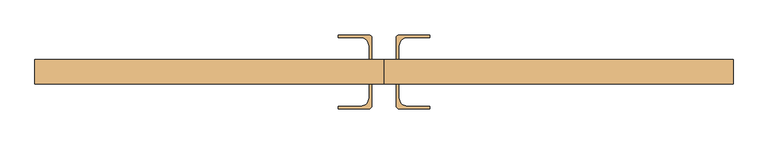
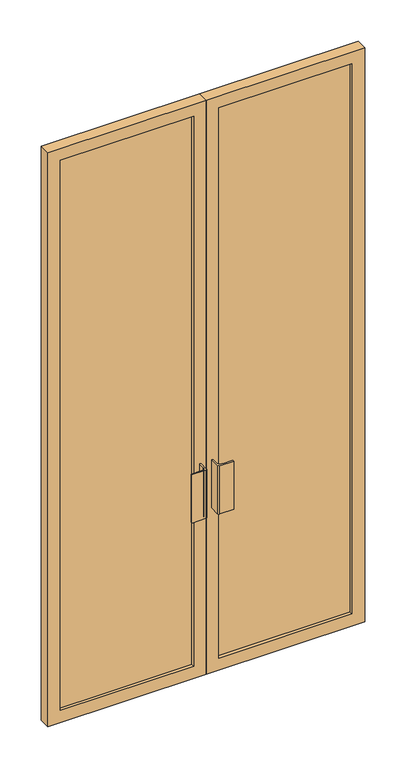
"""IFC4 building model written with IfcOpenShell, lengths in millimetres: door geometry, 门嵌板_双开门3 : 门嵌板_双开门 3."""

from ifc_helpers import new_model, si_unit, point, frame, frame_2d, origin, place, context, project, spatial, polyline, circle_curve, trimmed, segment, composite_curve, outline, extrude, source, transform, mapped, element, save


def door_3722e41d(model_context):
    return source(origin(), model_context, "Body", "SweptSolid", [
        extrude(outline(composite_curve([segment(polyline([(-25.0, 25.0), (-30.5, 25.0), (-30.5, 52.5)]), True, "CONTINUOUS"), segment(trimmed(circle_curve(frame_2d((-48.5, 52.5)), 18.0), [point((-30.5, 52.5))], [point((-48.5, 70.5))], True, "CARTESIAN"), True, "CONTINUOUS"), segment(polyline([(-48.5, 70.5), (-94.0, 70.5), (-94.0, 76.0), (-31.0, 76.0)]), True, "CONTINUOUS"), segment(trimmed(circle_curve(frame_2d((-31.0, 70.0)), 6.0), [point((-31.0, 76.0))], [point((-25.0, 70.0))], False, "CARTESIAN"), True, "CONTINUOUS"), segment(polyline([(-25.0, 70.0), (-25.0, 25.0)]), True, "CONTINUOUS")], self_intersect=False)), frame((0.0, 0.0, 785.0), z_axis=(0.0, 0.0, 1.0), x_axis=(1.0, 0.0, 0.0)), (0.0, 0.0, 1.0), 230.0),
        extrude(outline(composite_curve([segment(polyline([(-25.0, -25.0), (-25.0, -70.0)]), True, "CONTINUOUS"), segment(trimmed(circle_curve(frame_2d((-31.0, -70.0)), 6.0), [point((-25.0, -70.0))], [point((-31.0, -76.0))], False, "CARTESIAN"), True, "CONTINUOUS"), segment(polyline([(-31.0, -76.0), (-94.0, -76.0), (-94.0, -70.5), (-48.5, -70.5)]), True, "CONTINUOUS"), segment(trimmed(circle_curve(frame_2d((-48.5, -52.5)), 18.0), [point((-48.5, -70.5))], [point((-30.5, -52.5))], True, "CARTESIAN"), True, "CONTINUOUS"), segment(polyline([(-30.5, -52.5), (-30.5, -25.0), (-25.0, -25.0)]), True, "CONTINUOUS")], self_intersect=False)), frame((0.0, 0.0, 785.0), z_axis=(0.0, 0.0, 1.0), x_axis=(1.0, 0.0, 0.0)), (0.0, 0.0, 1.0), 230.0),
        extrude(outline(composite_curve([segment(polyline([(25.0, 25.0), (25.0, 70.0)]), True, "CONTINUOUS"), segment(trimmed(circle_curve(frame_2d((31.0, 70.0)), 6.0), [point((25.0, 70.0))], [point((31.0, 76.0))], False, "CARTESIAN"), True, "CONTINUOUS"), segment(polyline([(31.0, 76.0), (94.0, 76.0), (94.0, 70.5), (48.5, 70.5)]), True, "CONTINUOUS"), segment(trimmed(circle_curve(frame_2d((48.5, 52.5)), 18.0), [point((48.5, 70.5))], [point((30.5, 52.5))], True, "CARTESIAN"), True, "CONTINUOUS"), segment(polyline([(30.5, 52.5), (30.5, 25.0), (25.0, 25.0)]), True, "CONTINUOUS")], self_intersect=False)), frame((0.0, 0.0, 785.0), z_axis=(0.0, 0.0, 1.0), x_axis=(1.0, 0.0, 0.0)), (0.0, 0.0, 1.0), 230.0),
        extrude(outline(composite_curve([segment(polyline([(25.0, -25.0), (30.5, -25.0), (30.5, -52.5)]), True, "CONTINUOUS"), segment(trimmed(circle_curve(frame_2d((48.5, -52.5)), 18.0), [point((30.5, -52.5))], [point((48.5, -70.5))], True, "CARTESIAN"), True, "CONTINUOUS"), segment(polyline([(48.5, -70.5), (94.0, -70.5), (94.0, -76.0), (31.0, -76.0)]), True, "CONTINUOUS"), segment(trimmed(circle_curve(frame_2d((31.0, -70.0)), 6.0), [point((31.0, -76.0))], [point((25.0, -70.0))], False, "CARTESIAN"), True, "CONTINUOUS"), segment(polyline([(25.0, -70.0), (25.0, -25.0)]), True, "CONTINUOUS")], self_intersect=False)), frame((0.0, 0.0, 785.0), z_axis=(0.0, 0.0, 1.0), x_axis=(1.0, 0.0, 0.0)), (0.0, 0.0, 1.0), 230.0),
        extrude(outline(polyline([(2740.0, 715.0), (2740.0, 0.0), (0.0, 0.0), (0.0, 715.0), (2740.0, 715.0)]), holes=[polyline([(2682.85, 657.85), (57.15, 657.85), (57.15, 56.94375), (2682.85, 56.94375), (2682.85, 657.85)])]), frame((0.0, -25.0, 0.0), z_axis=(0.0, 1.0, 0.0), x_axis=(0.0, 0.0, 1.0)), (0.0, 0.0, 1.0), 50.0),
        extrude(outline(polyline([(657.85, -10.0), (56.94375, -10.0), (56.94375, 10.0), (657.85, 10.0), (657.85, -10.0)])), frame((0.0, 0.0, 57.15), z_axis=(0.0, 0.0, 1.0), x_axis=(1.0, 0.0, 0.0)), (0.0, 0.0, 1.0), 2625.7),
        extrude(outline(polyline([(-56.94375, -10.0), (-657.85, -10.0), (-657.85, 10.0), (-56.94375, 10.0), (-56.94375, -10.0)])), frame((0.0, 0.0, 57.15), z_axis=(0.0, 0.0, 1.0), x_axis=(1.0, 0.0, 0.0)), (0.0, 0.0, 1.0), 2625.7),
        extrude(outline(polyline([(2740.0, 0.0), (2740.0, -715.0), (0.0, -715.0), (0.0, 0.0), (2740.0, 0.0)]), holes=[polyline([(2682.85, -657.85), (2682.85, -56.94375), (57.15, -56.94375), (57.15, -657.85), (2682.85, -657.85)])]), frame((0.0, -25.0, 0.0), z_axis=(0.0, 1.0, 0.0), x_axis=(0.0, 0.0, 1.0)), (0.0, 0.0, 1.0), 50.0),
    ])


if __name__ == "__main__":
    model = new_model("IFC4")
    model_context = context("Model", 3, world=origin())
    ifc_project = project(units=[si_unit("LENGTHUNIT", "METRE", prefix="MILLI")], contexts=[model_context])
    site = spatial("IfcSite", under=ifc_project)
    building = spatial("IfcBuilding", under=site)
    placement = place(None, origin())
    door_shape = door_3722e41d(model_context)
    element("IfcDoor", 1, ObjectType="门嵌板_双开门3 : 门嵌板_双开门 3", at=placement, inside=building, context=model_context, shape_type="MappedRepresentation", body=[
        mapped(door_shape, transform((0.0, 0.0, 0.0), x_axis=(1.0, 0.0, 0.0), y_axis=(0.0, 1.0, 0.0), z_axis=(0.0, 0.0, 1.0))),
    ])
    save(model, "model.ifc")
